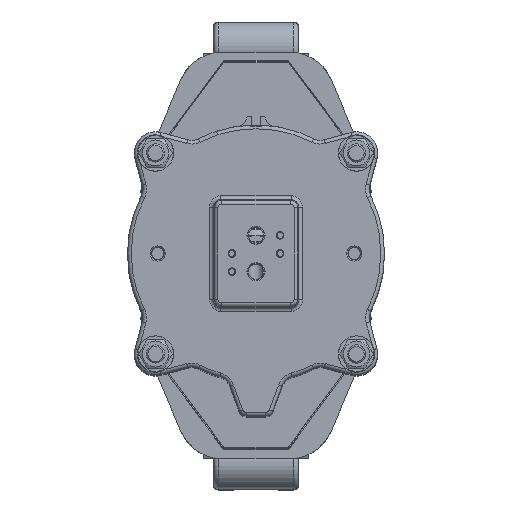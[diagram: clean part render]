
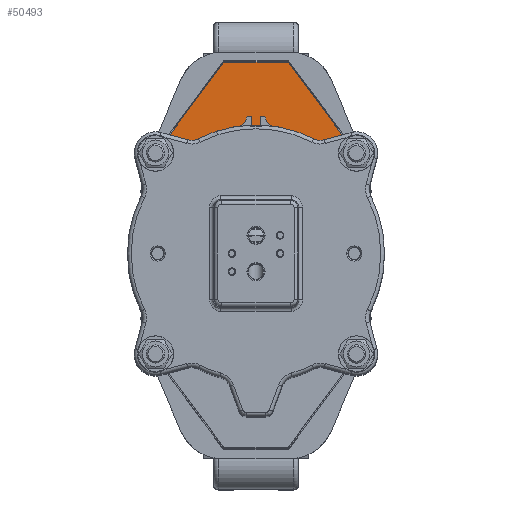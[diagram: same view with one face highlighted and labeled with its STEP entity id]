
A CAD part, top view. The second image highlights one B-rep face of the part: STEP entity #50493.
In plain terms, the highlighted planar face has unit normal (0, 0, 1).
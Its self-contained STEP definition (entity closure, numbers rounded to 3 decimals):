
#2799=PLANE('',#55292);
#4694=LINE('',#93276,#7949);
#4696=LINE('',#93279,#7951);
#4697=LINE('',#93282,#7952);
#4720=LINE('',#93338,#7975);
#4721=LINE('',#93340,#7976);
#4722=LINE('',#93342,#7977);
#4723=LINE('',#93344,#7978);
#4724=LINE('',#93345,#7979);
#7949=VECTOR('',#65949,10.);
#7951=VECTOR('',#65953,10.);
#7952=VECTOR('',#65956,10.);
#7975=VECTOR('',#66019,10.);
#7976=VECTOR('',#66020,10.);
#7977=VECTOR('',#66021,10.);
#7978=VECTOR('',#66022,10.);
#7979=VECTOR('',#66023,10.);
#12332=FACE_OUTER_BOUND('',#15516,.T.);
#15516=EDGE_LOOP('',(#40599,#40600,#40601,#40602,#40603,#40604,#40605,#40606));
#22975=VERTEX_POINT('',#93231);
#22991=VERTEX_POINT('',#93273);
#22992=VERTEX_POINT('',#93275);
#22993=VERTEX_POINT('',#93281);
#23006=VERTEX_POINT('',#93337);
#23007=VERTEX_POINT('',#93339);
#23008=VERTEX_POINT('',#93341);
#23009=VERTEX_POINT('',#93343);
#29196=EDGE_CURVE('',#22992,#22991,#4694,.T.);
#29198=EDGE_CURVE('',#22991,#22975,#4696,.T.);
#29199=EDGE_CURVE('',#22993,#22992,#4697,.T.);
#29228=EDGE_CURVE('',#22975,#23006,#4720,.T.);
#29229=EDGE_CURVE('',#23006,#23007,#4721,.T.);
#29230=EDGE_CURVE('',#23008,#23007,#4722,.T.);
#29231=EDGE_CURVE('',#23009,#23008,#4723,.T.);
#29232=EDGE_CURVE('',#22993,#23009,#4724,.T.);
#40599=ORIENTED_EDGE('',*,*,#29198,.T.);
#40600=ORIENTED_EDGE('',*,*,#29228,.T.);
#40601=ORIENTED_EDGE('',*,*,#29229,.T.);
#40602=ORIENTED_EDGE('',*,*,#29230,.F.);
#40603=ORIENTED_EDGE('',*,*,#29231,.F.);
#40604=ORIENTED_EDGE('',*,*,#29232,.F.);
#40605=ORIENTED_EDGE('',*,*,#29199,.T.);
#40606=ORIENTED_EDGE('',*,*,#29196,.T.);
#50493=ADVANCED_FACE('',(#12332),#2799,.T.);
#55292=AXIS2_PLACEMENT_3D('',#93336,#66017,#66018);
#65949=DIRECTION('',(-0.595,0.804,0.));
#65953=DIRECTION('',(-1.,0.,0.));
#65956=DIRECTION('',(0.,1.,0.));
#66017=DIRECTION('center_axis',(0.,0.,
1.));
#66018=DIRECTION('ref_axis',(-1.,0.,0.));
#66019=DIRECTION('',(-1.,0.,0.));
#66020=DIRECTION('',(-1.,0.,0.));
#66021=DIRECTION('',(0.595,0.804,0.));
#66022=DIRECTION('',(0.,1.,0.));
#66023=DIRECTION('',(-1.,0.,0.));
#93231=CARTESIAN_POINT('',(20.647,127.271,482.7));
#93273=CARTESIAN_POINT('',(21.468,127.271,482.7));
#93275=CARTESIAN_POINT('',(65.,68.441,482.7));
#93276=CARTESIAN_POINT('',(20.95,127.971,482.7));
#93279=CARTESIAN_POINT('',(-2.5,127.271,482.7));
#93281=CARTESIAN_POINT('',(65.,59.971,482.7));
#93282=CARTESIAN_POINT('',(65.,68.441,482.7));
#93336=CARTESIAN_POINT('Origin',(-25.648,87.898,482.7));
#93337=CARTESIAN_POINT('',(-20.647,127.271,482.7));
#93338=CARTESIAN_POINT('',(-2.5,127.271,482.7));
#93339=CARTESIAN_POINT('',(-21.468,127.271,482.7));
#93340=CARTESIAN_POINT('',(-23.147,127.271,482.7));
#93341=CARTESIAN_POINT('',(-65.,68.441,482.7));
#93342=CARTESIAN_POINT('',(-20.95,127.971,482.7));
#93343=CARTESIAN_POINT('',(-65.,59.971,482.7));
#93344=CARTESIAN_POINT('',(-65.,68.441,482.7));
#93345=CARTESIAN_POINT('',(-65.,59.971,482.7));
